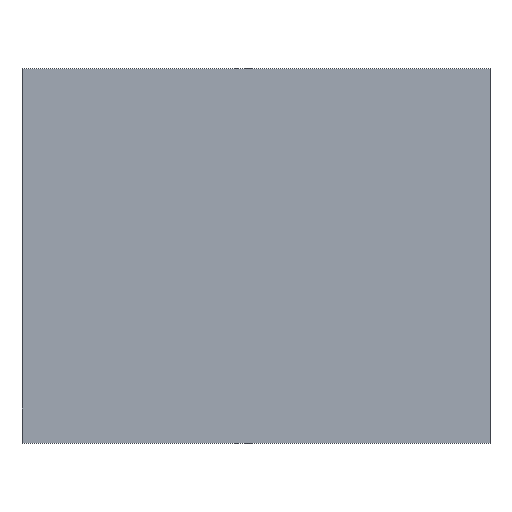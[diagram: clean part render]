
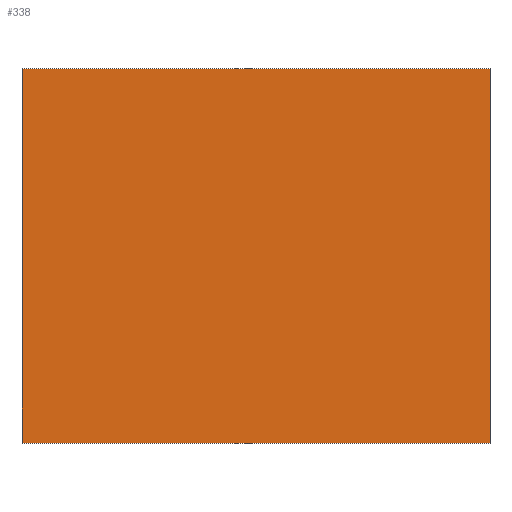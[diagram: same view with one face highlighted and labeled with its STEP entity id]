
A CAD part, top view. The second image highlights one B-rep face of the part: STEP entity #338.
In plain terms, the highlighted planar face has unit normal (0, 0, 1).
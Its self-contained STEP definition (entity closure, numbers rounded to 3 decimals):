
#24 = VERTEX_POINT('',#25);
#25 = CARTESIAN_POINT('',(0.,0.,4.));
#32 = PLANE('',#33);
#33 = AXIS2_PLACEMENT_3D('',#34,#35,#36);
#34 = CARTESIAN_POINT('',(0.,0.,0.));
#35 = DIRECTION('',(1.,0.,-0.));
#36 = DIRECTION('',(0.,0.,1.));
#44 = PLANE('',#45);
#45 = AXIS2_PLACEMENT_3D('',#46,#47,#48);
#46 = CARTESIAN_POINT('',(0.,0.,0.));
#47 = DIRECTION('',(-0.,1.,0.));
#48 = DIRECTION('',(0.,0.,1.));
#85 = VERTEX_POINT('',#86);
#86 = CARTESIAN_POINT('',(0.,8.,4.));
#100 = PLANE('',#101);
#101 = AXIS2_PLACEMENT_3D('',#102,#103,#104);
#102 = CARTESIAN_POINT('',(0.,8.,0.));
#103 = DIRECTION('',(-0.,1.,0.));
#104 = DIRECTION('',(0.,0.,1.));
#112 = EDGE_CURVE('',#24,#85,#113,.T.);
#113 = SURFACE_CURVE('',#114,(#118,#125),.PCURVE_S1.);
#114 = LINE('',#115,#116);
#115 = CARTESIAN_POINT('',(0.,0.,4.));
#116 = VECTOR('',#117,1.);
#117 = DIRECTION('',(-0.,1.,0.));
#118 = PCURVE('',#32,#119);
#119 = DEFINITIONAL_REPRESENTATION('',(#120),#124);
#120 = LINE('',#121,#122);
#121 = CARTESIAN_POINT('',(4.,0.));
#122 = VECTOR('',#123,1.);
#123 = DIRECTION('',(0.,-1.));
#124 = ( GEOMETRIC_REPRESENTATION_CONTEXT(2) 
PARAMETRIC_REPRESENTATION_CONTEXT() REPRESENTATION_CONTEXT('2D SPACE',''
  ) );
#125 = PCURVE('',#126,#131);
#126 = PLANE('',#127);
#127 = AXIS2_PLACEMENT_3D('',#128,#129,#130);
#128 = CARTESIAN_POINT('',(0.,0.,4.));
#129 = DIRECTION('',(0.,0.,1.));
#130 = DIRECTION('',(1.,0.,-0.));
#131 = DEFINITIONAL_REPRESENTATION('',(#132),#136);
#132 = LINE('',#133,#134);
#133 = CARTESIAN_POINT('',(0.,0.));
#134 = VECTOR('',#135,1.);
#135 = DIRECTION('',(0.,1.));
#136 = ( GEOMETRIC_REPRESENTATION_CONTEXT(2) 
PARAMETRIC_REPRESENTATION_CONTEXT() REPRESENTATION_CONTEXT('2D SPACE',''
  ) );
#144 = VERTEX_POINT('',#145);
#145 = CARTESIAN_POINT('',(10.,0.,4.));
#152 = PLANE('',#153);
#153 = AXIS2_PLACEMENT_3D('',#154,#155,#156);
#154 = CARTESIAN_POINT('',(10.,0.,0.));
#155 = DIRECTION('',(1.,0.,-0.));
#156 = DIRECTION('',(0.,0.,1.));
#195 = VERTEX_POINT('',#196);
#196 = CARTESIAN_POINT('',(10.,8.,4.));
#217 = EDGE_CURVE('',#144,#195,#218,.T.);
#218 = SURFACE_CURVE('',#219,(#223,#230),.PCURVE_S1.);
#219 = LINE('',#220,#221);
#220 = CARTESIAN_POINT('',(10.,0.,4.));
#221 = VECTOR('',#222,1.);
#222 = DIRECTION('',(-0.,1.,0.));
#223 = PCURVE('',#152,#224);
#224 = DEFINITIONAL_REPRESENTATION('',(#225),#229);
#225 = LINE('',#226,#227);
#226 = CARTESIAN_POINT('',(4.,0.));
#227 = VECTOR('',#228,1.);
#228 = DIRECTION('',(0.,-1.));
#229 = ( GEOMETRIC_REPRESENTATION_CONTEXT(2) 
PARAMETRIC_REPRESENTATION_CONTEXT() REPRESENTATION_CONTEXT('2D SPACE',''
  ) );
#230 = PCURVE('',#126,#231);
#231 = DEFINITIONAL_REPRESENTATION('',(#232),#236);
#232 = LINE('',#233,#234);
#233 = CARTESIAN_POINT('',(10.,0.));
#234 = VECTOR('',#235,1.);
#235 = DIRECTION('',(0.,1.));
#236 = ( GEOMETRIC_REPRESENTATION_CONTEXT(2) 
PARAMETRIC_REPRESENTATION_CONTEXT() REPRESENTATION_CONTEXT('2D SPACE',''
  ) );
#263 = EDGE_CURVE('',#24,#144,#264,.T.);
#264 = SURFACE_CURVE('',#265,(#269,#276),.PCURVE_S1.);
#265 = LINE('',#266,#267);
#266 = CARTESIAN_POINT('',(0.,0.,4.));
#267 = VECTOR('',#268,1.);
#268 = DIRECTION('',(1.,0.,-0.));
#269 = PCURVE('',#44,#270);
#270 = DEFINITIONAL_REPRESENTATION('',(#271),#275);
#271 = LINE('',#272,#273);
#272 = CARTESIAN_POINT('',(4.,0.));
#273 = VECTOR('',#274,1.);
#274 = DIRECTION('',(0.,1.));
#275 = ( GEOMETRIC_REPRESENTATION_CONTEXT(2) 
PARAMETRIC_REPRESENTATION_CONTEXT() REPRESENTATION_CONTEXT('2D SPACE',''
  ) );
#276 = PCURVE('',#126,#277);
#277 = DEFINITIONAL_REPRESENTATION('',(#278),#282);
#278 = LINE('',#279,#280);
#279 = CARTESIAN_POINT('',(0.,0.));
#280 = VECTOR('',#281,1.);
#281 = DIRECTION('',(1.,0.));
#282 = ( GEOMETRIC_REPRESENTATION_CONTEXT(2) 
PARAMETRIC_REPRESENTATION_CONTEXT() REPRESENTATION_CONTEXT('2D SPACE',''
  ) );
#310 = EDGE_CURVE('',#85,#195,#311,.T.);
#311 = SURFACE_CURVE('',#312,(#316,#323),.PCURVE_S1.);
#312 = LINE('',#313,#314);
#313 = CARTESIAN_POINT('',(0.,8.,4.));
#314 = VECTOR('',#315,1.);
#315 = DIRECTION('',(1.,0.,-0.));
#316 = PCURVE('',#100,#317);
#317 = DEFINITIONAL_REPRESENTATION('',(#318),#322);
#318 = LINE('',#319,#320);
#319 = CARTESIAN_POINT('',(4.,0.));
#320 = VECTOR('',#321,1.);
#321 = DIRECTION('',(0.,1.));
#322 = ( GEOMETRIC_REPRESENTATION_CONTEXT(2) 
PARAMETRIC_REPRESENTATION_CONTEXT() REPRESENTATION_CONTEXT('2D SPACE',''
  ) );
#323 = PCURVE('',#126,#324);
#324 = DEFINITIONAL_REPRESENTATION('',(#325),#329);
#325 = LINE('',#326,#327);
#326 = CARTESIAN_POINT('',(0.,8.));
#327 = VECTOR('',#328,1.);
#328 = DIRECTION('',(1.,0.));
#329 = ( GEOMETRIC_REPRESENTATION_CONTEXT(2) 
PARAMETRIC_REPRESENTATION_CONTEXT() REPRESENTATION_CONTEXT('2D SPACE',''
  ) );
#338 = ADVANCED_FACE('',(#339),#126,.T.);
#339 = FACE_BOUND('',#340,.T.);
#340 = EDGE_LOOP('',(#341,#342,#343,#344));
#341 = ORIENTED_EDGE('',*,*,#112,.F.);
#342 = ORIENTED_EDGE('',*,*,#263,.T.);
#343 = ORIENTED_EDGE('',*,*,#217,.T.);
#344 = ORIENTED_EDGE('',*,*,#310,.F.);
